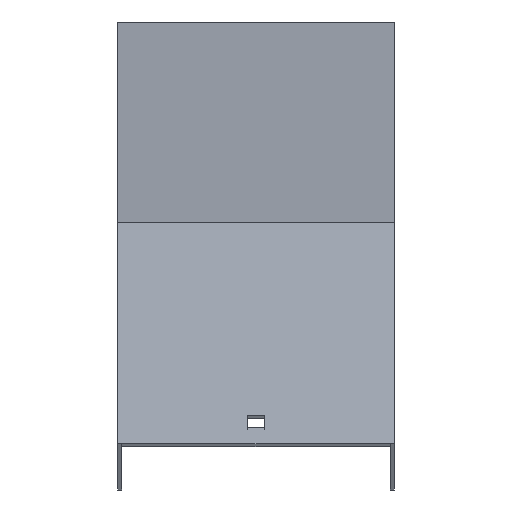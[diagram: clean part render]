
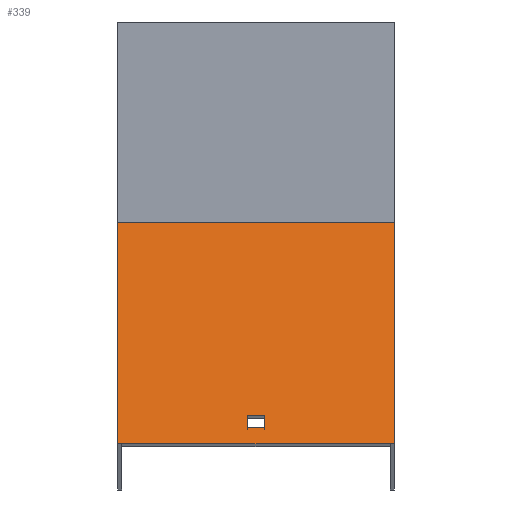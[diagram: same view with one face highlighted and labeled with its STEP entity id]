
A CAD part, top view. The second image highlights one B-rep face of the part: STEP entity #339.
In plain terms, the highlighted planar face has unit normal (0, 0.866, 0.5).
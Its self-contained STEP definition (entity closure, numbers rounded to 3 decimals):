
#2 = CARTESIAN_POINT ( 'NONE',  ( 51.5, -56.443, 448.289 ) ) ;
#6 = VERTEX_POINT ( 'NONE', #223 ) ;
#56 = VECTOR ( 'NONE', #330, 1000. ) ;
#77 = EDGE_LOOP ( 'NONE', ( #655, #220, #436, #229 ) ) ;
#85 = VERTEX_POINT ( 'NONE', #290 ) ;
#126 = VECTOR ( 'NONE', #403, 1000. ) ;
#130 = ORIENTED_EDGE ( 'NONE', *, *, #230, .T. ) ;
#134 = LINE ( 'NONE', #2, #350 ) ;
#174 = CARTESIAN_POINT ( 'NONE',  ( 51.5, -131.943, 579.059 ) ) ;
#192 = VERTEX_POINT ( 'NONE', #260 ) ;
#196 = EDGE_LOOP ( 'NONE', ( #130, #629, #334, #366 ) ) ;
#219 = CARTESIAN_POINT ( 'NONE',  ( -51.5, -56.443, 448.289 ) ) ;
#220 = ORIENTED_EDGE ( 'NONE', *, *, #413, .F. ) ;
#223 = CARTESIAN_POINT ( 'NONE',  ( -51.5, -137.943, 589.451 ) ) ;
#229 = ORIENTED_EDGE ( 'NONE', *, *, #772, .T. ) ;
#230 = EDGE_CURVE ( 'NONE', #533, #294, #821, .T. ) ;
#236 = DIRECTION ( 'NONE',  ( 0., 0.5, -0.866 ) ) ;
#260 = CARTESIAN_POINT ( 'NONE',  ( 51.5, -137.943, 589.451 ) ) ;
#290 = CARTESIAN_POINT ( 'NONE',  ( -3.25, -131.943, 579.059 ) ) ;
#291 = DIRECTION ( 'NONE',  ( 0., -0.5, 0.866 ) ) ;
#294 = VERTEX_POINT ( 'NONE', #638 ) ;
#307 = DIRECTION ( 'NONE',  ( 1., 0., 0. ) ) ;
#321 = PLANE ( 'NONE',  #408 ) ;
#330 = DIRECTION ( 'NONE',  ( 0., 0.5, -0.866 ) ) ;
#334 = ORIENTED_EDGE ( 'NONE', *, *, #563, .T. ) ;
#339 = ADVANCED_FACE ( 'NONE', ( #450, #712 ), #321, .F. ) ;
#350 = VECTOR ( 'NONE', #665, 1000. ) ;
#357 = LINE ( 'NONE', #219, #760 ) ;
#366 = ORIENTED_EDGE ( 'NONE', *, *, #384, .T. ) ;
#369 = LINE ( 'NONE', #559, #461 ) ;
#384 = EDGE_CURVE ( 'NONE', #85, #533, #847, .T. ) ;
#403 = DIRECTION ( 'NONE',  ( 0., -0.5, 0.866 ) ) ;
#408 = AXIS2_PLACEMENT_3D ( 'NONE', #586, #432, #236 ) ;
#413 = EDGE_CURVE ( 'NONE', #192, #6, #727, .T. ) ;
#427 = CARTESIAN_POINT ( 'NONE',  ( -3.25, -127.443, 571.264 ) ) ;
#432 = DIRECTION ( 'NONE',  ( 0., -0.866, -0.5 ) ) ;
#435 = VECTOR ( 'NONE', #656, 1000. ) ;
#436 = ORIENTED_EDGE ( 'NONE', *, *, #618, .F. ) ;
#438 = DIRECTION ( 'NONE',  ( -1., 0., 0. ) ) ;
#441 = CARTESIAN_POINT ( 'NONE',  ( 51.5, -55.126, 446.009 ) ) ;
#450 = FACE_BOUND ( 'NONE', #196, .T. ) ;
#456 = CARTESIAN_POINT ( 'NONE',  ( 51.5, -137.943, 589.451 ) ) ;
#461 = VECTOR ( 'NONE', #750, 1000. ) ;
#465 = CARTESIAN_POINT ( 'NONE',  ( 3.25, -131.943, 579.059 ) ) ;
#480 = VERTEX_POINT ( 'NONE', #441 ) ;
#487 = VERTEX_POINT ( 'NONE', #504 ) ;
#504 = CARTESIAN_POINT ( 'NONE',  ( -51.5, -55.126, 446.009 ) ) ;
#526 = CARTESIAN_POINT ( 'NONE',  ( -3.25, -56.443, 448.289 ) ) ;
#533 = VERTEX_POINT ( 'NONE', #427 ) ;
#559 = CARTESIAN_POINT ( 'NONE',  ( 51.5, -55.126, 446.009 ) ) ;
#563 = EDGE_CURVE ( 'NONE', #610, #85, #759, .T. ) ;
#579 = VECTOR ( 'NONE', #438, 1000. ) ;
#586 = CARTESIAN_POINT ( 'NONE',  ( 51.5, -56.443, 448.289 ) ) ;
#610 = VERTEX_POINT ( 'NONE', #465 ) ;
#618 = EDGE_CURVE ( 'NONE', #480, #192, #134, .T. ) ;
#629 = ORIENTED_EDGE ( 'NONE', *, *, #795, .T. ) ;
#638 = CARTESIAN_POINT ( 'NONE',  ( 3.25, -127.443, 571.264 ) ) ;
#647 = CARTESIAN_POINT ( 'NONE',  ( 51.5, -127.443, 571.264 ) ) ;
#655 = ORIENTED_EDGE ( 'NONE', *, *, #714, .T. ) ;
#656 = DIRECTION ( 'NONE',  ( -1., 0., 0. ) ) ;
#665 = DIRECTION ( 'NONE',  ( 0., -0.5, 0.866 ) ) ;
#673 = CARTESIAN_POINT ( 'NONE',  ( 3.25, -56.443, 448.289 ) ) ;
#712 = FACE_OUTER_BOUND ( 'NONE', #77, .T. ) ;
#714 = EDGE_CURVE ( 'NONE', #487, #6, #357, .T. ) ;
#719 = VECTOR ( 'NONE', #307, 1000. ) ;
#727 = LINE ( 'NONE', #456, #435 ) ;
#728 = LINE ( 'NONE', #673, #126 ) ;
#750 = DIRECTION ( 'NONE',  ( -1., 0., 0. ) ) ;
#759 = LINE ( 'NONE', #174, #579 ) ;
#760 = VECTOR ( 'NONE', #291, 1000. ) ;
#772 = EDGE_CURVE ( 'NONE', #480, #487, #369, .T. ) ;
#795 = EDGE_CURVE ( 'NONE', #294, #610, #728, .T. ) ;
#821 = LINE ( 'NONE', #647, #719 ) ;
#847 = LINE ( 'NONE', #526, #56 ) ;
